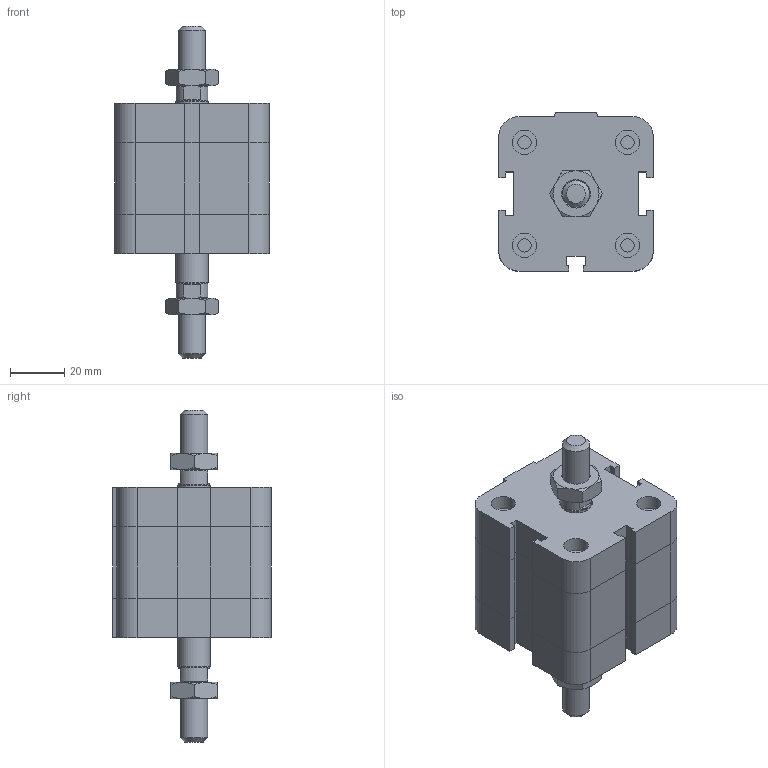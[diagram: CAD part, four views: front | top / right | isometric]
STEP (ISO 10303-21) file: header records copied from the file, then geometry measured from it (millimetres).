
FILE_DESCRIPTION((''),'2;1');
FILE_NAME('I:\Area Tecnica\Disegni\VARIE-3D\Componenti\EUROPE\15##_###_####_04_#\1561_40_0010_04_1.iam.stp','2009-04-20T14:45:30',(''),(''),'Autodesk Inventor 2009','Autodesk Inventor 2009','');
FILE_SCHEMA(('AUTOMOTIVE_DESIGN { 1 0 10303 214 1 1 1 1 }'));
Length unit declared in the file: millimetre
Products named in the file (4): 1561_40_0010_04_1; 1561_40_0010_03_1_C; 1561_40_0010_04_1_S; DBFM10
Assembly tree (4 placements, depth 2):
  1561_40_0010_04_1
    1561_40_0010_03_1_C
    1561_40_0010_04_1_S
    DBFM10  x2
Bounding box: 57 x 58.5 x 122.5 mm (x, y, z)
Volume: 170801.3 mm3; surface area: 32296.9 mm2
Topology: 4 solids, 4 shells, 222 faces, 483 edges, 289 vertices
Faces by surface type: plane 129, cone 35, bspline 33, cylinder 25
Full cylindrical faces by diameter (mm): 4.917 x4, 8.8 x1, 9 x4, 10 x1, 11.7 x2, 12 x1
Entity records: 5450 total; most frequent: CARTESIAN_POINT 1222, DIRECTION 802, ORIENTED_EDGE 772, EDGE_CURVE 386, AXIS2_PLACEMENT_3D 272, EDGE_LOOP 258, VECTOR 258, LINE 258
